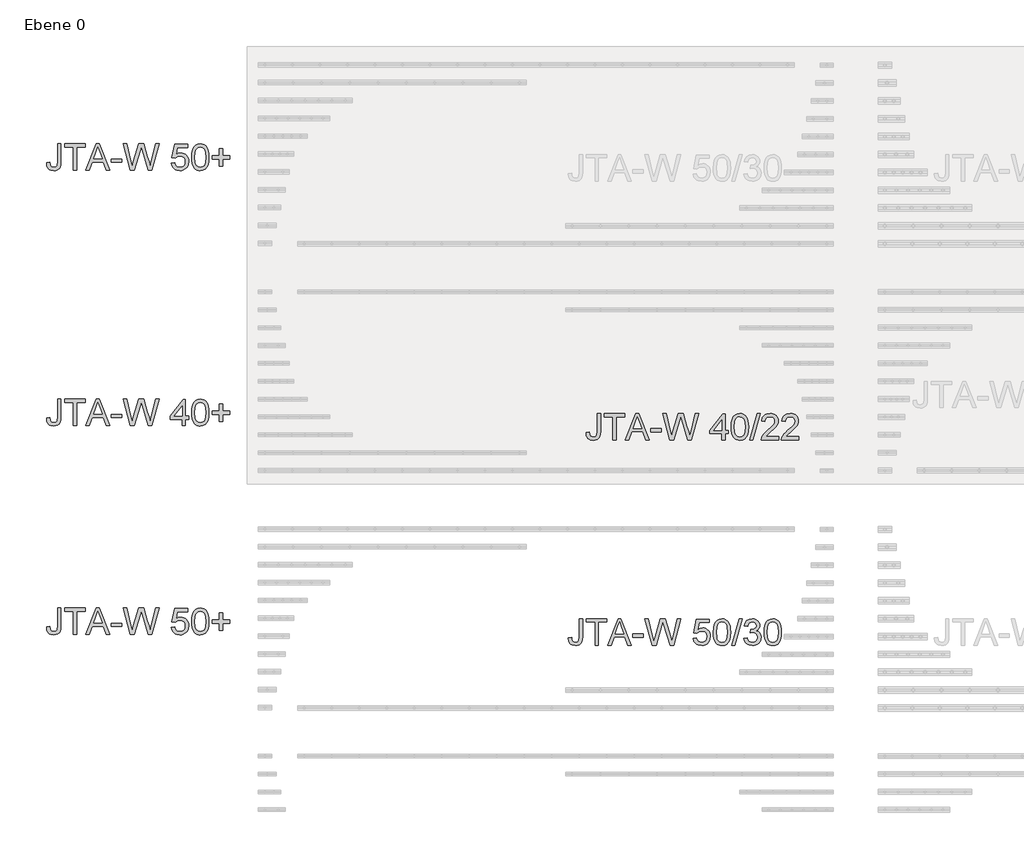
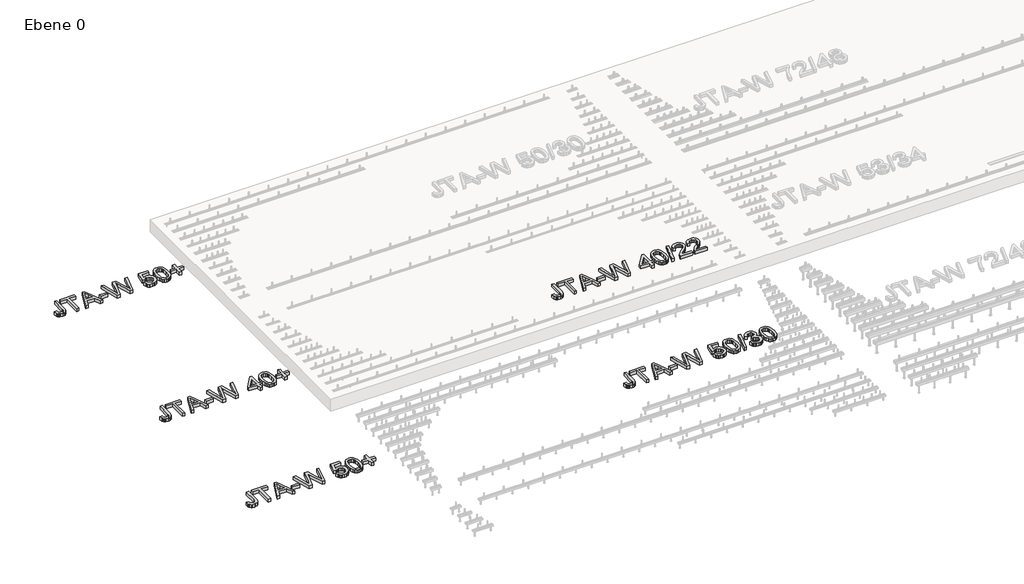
# One storey, part 4 of 5: 5 proxies.
"""IFC4 building model written with IfcOpenShell, lengths in millimetres."""

from ifc_helpers import new_model, si_unit, origin, origin_with_axes, place, context, project, spatial, polyline, outline, extrude, element, save

model = new_model("IFC4")

# Units and contexts
model_context = context("Model", 3, world=origin())
ifc_project = project(units=[si_unit("LENGTHUNIT", "METRE", prefix="MILLI")], contexts=[model_context])

# Site, building, storey
site = spatial("IfcSite", under=ifc_project)
building = spatial("IfcBuilding", under=site)
storey = spatial("IfcBuildingStorey", under=building, Name="Ebene 0", Elevation=0.0)

# Proxies
placement = place(None, origin())
element("IfcBuildingElementProxy", 1, Name="600mm Arial", ObjectType="600mm Arial", at=placement, inside=storey, context=model_context, shape_type="SweptSolid", body=[
    extrude(outline(polyline([(-10013.7628927, 865.6259075), (-9976.8398158, 870.3855229), (-9972.9996716, 843.5405709), (-9964.2196235, 826.7557152), (-9950.806162, 817.9396094), (-9933.0657774, 815.0009075), (-9919.4269552, 816.6685757), (-9907.789335, 821.6715805), (-9898.8109697, 829.5501863), (-9893.149912, 839.8446575), (-9889.1475081, 876.4432152), (-9889.1475081, 1078.0778305), (-9852.2244312, 1078.0778305), (-9852.2244312, 877.0922536), (-9854.4509937, 844.2166527), (-9861.1306812, 819.7244652), (-9872.6511139, 801.8308354), (-9889.399912, 788.7509075), (-9910.430561, 780.7460998), (-9934.7965466, 778.0778305), (-9968.9251524, 783.585643), (-9982.595525, 790.4704087), (-9994.0032774, 800.1090805), (-10002.945585, 812.465601), (-10009.2196235, 827.5039123), (-10013.7628927, 865.6259075)])), origin_with_axes(), (0.0, 0.0, 1.0), 50.0),
    extrude(outline(polyline([(-9713.7628927, 782.6932152), (-9713.7628927, 1041.1547536), (-9810.6859697, 1041.1547536), (-9810.6859697, 1078.0778305), (-9579.9167389, 1078.0778305), (-9579.9167389, 1041.1547536), (-9676.8398158, 1041.1547536), (-9676.8398158, 782.6932152), (-9713.7628927, 782.6932152)])), origin_with_axes(), (0.0, 0.0, 1.0), 50.0),
    extrude(outline(polyline([(-9572.7773158, 782.6932152), (-9454.868662, 1078.0778305), (-9423.4263543, 1078.0778305), (-9305.5177004, 782.6932152), (-9344.5321235, 782.6932152), (-9378.3542389, 875.0009075), (-9500.0128927, 875.0009075), (-9533.7628927, 782.6932152), (-9572.7773158, 782.6932152)]), holes=[polyline([(-9486.4552004, 911.9239844), (-9391.8398158, 911.9239844), (-9418.4503927, 984.5441767), (-9439.1475081, 1041.1547536), (-9457.5369312, 990.8903305), (-9486.4552004, 911.9239844)])]), origin_with_axes(), (0.0, 0.0, 1.0), 50.0),
    extrude(outline(polyline([(-9289.1475081, 870.3855229), (-9289.1475081, 907.3085998), (-9173.7628927, 907.3085998), (-9173.7628927, 870.3855229), (-9289.1475081, 870.3855229)])), origin_with_axes(), (0.0, 0.0, 1.0), 50.0),
    extrude(outline(polyline([(-9074.7484697, 782.6932152), (-9155.3013543, 1078.0778305), (-9117.2244312, 1078.0778305), (-9070.493662, 883.9432152), (-9056.070585, 824.0153305), (-9040.6378927, 877.0201382), (-8982.0802004, 1078.0778305), (-8927.2003927, 1078.0778305), (-8884.6523158, 932.3326382), (-8866.4251524, 878.2460998), (-8852.993662, 824.0153305), (-8839.0032774, 882.2124459), (-8791.8398158, 1078.0778305), (-8753.7628927, 1078.0778305), (-8834.3878927, 782.6932152), (-8873.8350081, 782.6932152), (-8944.6523158, 1010.5778305), (-8954.5321235, 1042.3807152), (-8965.6378927, 1004.0874459), (-9030.181162, 782.6932152), (-9074.7484697, 782.6932152)])), origin_with_axes(), (0.0, 0.0, 1.0), 50.0),
    extrude(outline(polyline([(-8615.3013543, 861.1547536), (-8578.3782774, 865.7701382), (-8571.5994312, 843.6036719), (-8559.7725081, 827.7292729), (-8542.9515947, 818.1829988), (-8521.1907774, 815.0009075), (-8494.7244312, 819.4269892), (-8474.8927004, 832.7052344), (-8462.5068831, 853.3031911), (-8458.3782774, 879.6884075), (-8462.2454649, 904.5321575), (-8473.8470274, 923.5345613), (-8493.2731091, 935.5958594), (-8520.6138543, 939.6162921), (-8538.5255129, 938.0117248), (-8553.0297197, 933.1980229), (-8573.7628927, 916.539369), (-8610.6859697, 921.1547536), (-8578.3782774, 1073.4624459), (-8435.3013543, 1073.4624459), (-8435.3013543, 1036.539369), (-8548.5225081, 1036.539369), (-8564.3157774, 955.1932152), (-8537.9395754, 971.2028305), (-8510.3013543, 976.539369), (-8492.3198338, 974.8852224), (-8475.8031572, 969.9227825), (-8460.7513242, 961.6520493), (-8447.164335, 950.0730229), (-8435.9165887, 935.8933354), (-8427.8824841, 919.820619), (-8423.0620213, 901.8548738), (-8421.4552004, 881.9960998), (-8427.24246, 845.0730229), (-8434.4765346, 828.6126863), (-8444.6042389, 813.4864844), (-8459.946787, 797.9951983), (-8477.8494312, 786.929994), (-8498.3121716, 780.2908714), (-8521.3350081, 778.0778305), (-8557.6000322, 783.7659315), (-8572.9673699, 790.8760577), (-8586.4912581, 800.8302344), (-8597.7435117, 813.1326683), (-8606.2959456, 827.2875661), (-8615.3013543, 861.1547536)])), origin_with_axes(), (0.0, 0.0, 1.0), 50.0),
    extrude(outline(polyline([(-8389.1475081, 928.0057152), (-8386.4341668, 975.2863642), (-8378.2941427, 1012.9936959), (-8364.8085658, 1041.7046334), (-8346.0585658, 1061.9960998), (-8321.9089264, 1074.0573979), (-8292.2244312, 1078.0778305), (-8269.4720274, 1075.6980229), (-8249.0994312, 1068.5585998), (-8232.0621716, 1056.9390084), (-8219.3157774, 1041.1186959), (-8209.6883735, 1021.2328786), (-8202.008085, 997.4167729), (-8196.978037, 967.1733834), (-8195.3013543, 928.0057152), (-8197.9876524, 880.9954988), (-8206.0465466, 843.3783113), (-8219.4509937, 814.6403305), (-8238.1739504, 794.2677344), (-8262.3776764, 782.1253065), (-8292.2244312, 778.0778305), (-8312.5609697, 779.835643), (-8330.5898158, 785.1090805), (-8346.3109697, 793.898143), (-8359.7244312, 806.2028305), (-8372.5970274, 828.4459195), (-8381.7917389, 856.1607632), (-8387.3085658, 889.3473618), (-8389.1475081, 928.0057152)]), holes=[polyline([(-8352.2244312, 928.0778305), (-8347.8975081, 869.9979027), (-8342.4888543, 850.1323678), (-8334.9167389, 836.383119), (-8315.5898158, 820.3464604), (-8292.2244312, 815.0009075), (-8268.8590466, 820.3644892), (-8249.5321235, 836.4552344), (-8241.9600081, 850.2270192), (-8236.5513543, 870.0880469), (-8232.2244312, 928.0778305), (-8236.4071235, 984.8506671), (-8241.6354889, 1004.6508474), (-8248.9552004, 1018.726869), (-8268.2460658, 1035.5477825), (-8292.6571235, 1041.1547536), (-8315.7701043, 1036.2148498), (-8334.3398158, 1021.3951382), (-8342.164335, 1006.070619), (-8347.7532774, 985.4095613), (-8352.2244312, 928.0778305)])]), origin_with_axes(), (0.0, 0.0, 1.0), 50.0),
    extrude(outline(polyline([(-8079.9167389, 828.8470613), (-8079.9167389, 907.3085998), (-8158.3782774, 907.3085998), (-8158.3782774, 944.2316767), (-8079.9167389, 944.2316767), (-8079.9167389, 1022.6932152), (-8042.993662, 1022.6932152), (-8042.993662, 944.2316767), (-7964.5321235, 944.2316767), (-7964.5321235, 907.3085998), (-8042.993662, 907.3085998), (-8042.993662, 828.8470613), (-8079.9167389, 828.8470613)])), origin_with_axes(), (0.0, 0.0, 1.0), 50.0),
])
element("IfcBuildingElementProxy", 2, Name="600mm Arial", ObjectType="600mm Arial", at=placement, inside=storey, context=model_context, shape_type="SweptSolid", body=[
    extrude(outline(polyline([(-4173.7628927, 745.6259075), (-4136.8398158, 750.3855229), (-4132.9996716, 723.5405709), (-4124.2196235, 706.7557152), (-4110.806162, 697.9396094), (-4093.0657774, 695.0009075), (-4079.4269552, 696.6685757), (-4067.789335, 701.6715805), (-4058.8109697, 709.5501863), (-4053.149912, 719.8446575), (-4049.1475081, 756.4432152), (-4049.1475081, 958.0778305), (-4012.2244312, 958.0778305), (-4012.2244312, 757.0922536), (-4014.4509937, 724.2166527), (-4021.1306812, 699.7244652), (-4032.6511139, 681.8308354), (-4049.399912, 668.7509075), (-4070.430561, 660.7460998), (-4094.7965466, 658.0778305), (-4128.9251524, 663.585643), (-4142.595525, 670.4704087), (-4154.0032774, 680.1090805), (-4162.945585, 692.465601), (-4169.2196235, 707.5039123), (-4173.7628927, 745.6259075)])), origin_with_axes(), (0.0, 0.0, 1.0), 50.0),
    extrude(outline(polyline([(-3873.7628927, 662.6932152), (-3873.7628927, 921.1547536), (-3970.6859697, 921.1547536), (-3970.6859697, 958.0778305), (-3739.9167389, 958.0778305), (-3739.9167389, 921.1547536), (-3836.8398158, 921.1547536), (-3836.8398158, 662.6932152), (-3873.7628927, 662.6932152)])), origin_with_axes(), (0.0, 0.0, 1.0), 50.0),
    extrude(outline(polyline([(-3732.7773158, 662.6932152), (-3614.868662, 958.0778305), (-3583.4263543, 958.0778305), (-3465.5177004, 662.6932152), (-3504.5321235, 662.6932152), (-3538.3542389, 755.0009075), (-3660.0128927, 755.0009075), (-3693.7628927, 662.6932152), (-3732.7773158, 662.6932152)]), holes=[polyline([(-3646.4552004, 791.9239844), (-3551.8398158, 791.9239844), (-3578.4503927, 864.5441767), (-3599.1475081, 921.1547536), (-3617.5369312, 870.8903305), (-3646.4552004, 791.9239844)])]), origin_with_axes(), (0.0, 0.0, 1.0), 50.0),
    extrude(outline(polyline([(-3449.1475081, 750.3855229), (-3449.1475081, 787.3085998), (-3333.7628927, 787.3085998), (-3333.7628927, 750.3855229), (-3449.1475081, 750.3855229)])), origin_with_axes(), (0.0, 0.0, 1.0), 50.0),
    extrude(outline(polyline([(-3234.7484697, 662.6932152), (-3315.3013543, 958.0778305), (-3277.2244312, 958.0778305), (-3230.493662, 763.9432152), (-3216.070585, 704.0153305), (-3200.6378927, 757.0201382), (-3142.0802004, 958.0778305), (-3087.2003927, 958.0778305), (-3044.6523158, 812.3326382), (-3026.4251524, 758.2460998), (-3012.993662, 704.0153305), (-2999.0032774, 762.2124459), (-2951.8398158, 958.0778305), (-2913.7628927, 958.0778305), (-2994.3878927, 662.6932152), (-3033.8350081, 662.6932152), (-3104.6523158, 890.5778305), (-3114.5321235, 922.3807152), (-3125.6378927, 884.0874459), (-3190.181162, 662.6932152), (-3234.7484697, 662.6932152)])), origin_with_axes(), (0.0, 0.0, 1.0), 50.0),
    extrude(outline(polyline([(-2775.3013543, 741.1547536), (-2738.3782774, 745.7701382), (-2731.5994312, 723.6036719), (-2719.7725081, 707.7292729), (-2702.9515947, 698.1829988), (-2681.1907774, 695.0009075), (-2654.7244312, 699.4269892), (-2634.8927004, 712.7052344), (-2622.5068831, 733.3031911), (-2618.3782774, 759.6884075), (-2622.2454649, 784.5321575), (-2633.8470274, 803.5345613), (-2653.2731091, 815.5958594), (-2680.6138543, 819.6162921), (-2698.5255129, 818.0117248), (-2713.0297197, 813.1980229), (-2733.7628927, 796.539369), (-2770.6859697, 801.1547536), (-2738.3782774, 953.4624459), (-2595.3013543, 953.4624459), (-2595.3013543, 916.539369), (-2708.5225081, 916.539369), (-2724.3157774, 835.1932152), (-2697.9395754, 851.2028305), (-2670.3013543, 856.539369), (-2652.3198338, 854.8852224), (-2635.8031572, 849.9227825), (-2620.7513242, 841.6520493), (-2607.164335, 830.0730229), (-2595.9165887, 815.8933354), (-2587.8824841, 799.820619), (-2583.0620213, 781.8548738), (-2581.4552004, 761.9960998), (-2587.24246, 725.0730229), (-2594.4765346, 708.6126863), (-2604.6042389, 693.4864844), (-2619.946787, 677.9951983), (-2637.8494312, 666.929994), (-2658.3121716, 660.2908714), (-2681.3350081, 658.0778305), (-2717.6000322, 663.7659315), (-2732.9673699, 670.8760577), (-2746.4912581, 680.8302344), (-2757.7435117, 693.1326683), (-2766.2959456, 707.2875661), (-2775.3013543, 741.1547536)])), origin_with_axes(), (0.0, 0.0, 1.0), 50.0),
    extrude(outline(polyline([(-2549.1475081, 808.0057152), (-2546.4341668, 855.2863642), (-2538.2941427, 892.9936959), (-2524.8085658, 921.7046334), (-2506.0585658, 941.9960998), (-2481.9089264, 954.0573979), (-2452.2244312, 958.0778305), (-2429.4720274, 955.6980229), (-2409.0994312, 948.5585998), (-2392.0621716, 936.9390084), (-2379.3157774, 921.1186959), (-2369.6883735, 901.2328786), (-2362.008085, 877.4167729), (-2356.978037, 847.1733834), (-2355.3013543, 808.0057152), (-2357.9876524, 760.9954988), (-2366.0465466, 723.3783113), (-2379.4509937, 694.6403305), (-2398.1739504, 674.2677344), (-2422.3776764, 662.1253065), (-2452.2244312, 658.0778305), (-2472.5609697, 659.835643), (-2490.5898158, 665.1090805), (-2506.3109697, 673.898143), (-2519.7244312, 686.2028305), (-2532.5970274, 708.4459195), (-2541.7917389, 736.1607632), (-2547.3085658, 769.3473618), (-2549.1475081, 808.0057152)]), holes=[polyline([(-2512.2244312, 808.0778305), (-2507.8975081, 749.9979027), (-2502.4888543, 730.1323678), (-2494.9167389, 716.383119), (-2475.5898158, 700.3464604), (-2452.2244312, 695.0009075), (-2428.8590466, 700.3644892), (-2409.5321235, 716.4552344), (-2401.9600081, 730.2270192), (-2396.5513543, 750.0880469), (-2392.2244312, 808.0778305), (-2396.4071235, 864.8506671), (-2401.6354889, 884.6508474), (-2408.9552004, 898.726869), (-2428.2460658, 915.5477825), (-2452.6571235, 921.1547536), (-2475.7701043, 916.2148498), (-2494.3398158, 901.3951382), (-2502.164335, 886.070619), (-2507.7532774, 865.4095613), (-2512.2244312, 808.0778305)])]), origin_with_axes(), (0.0, 0.0, 1.0), 50.0),
    extrude(outline(polyline([(-2341.4552004, 662.6932152), (-2258.3782774, 958.0778305), (-2225.0609697, 958.0778305), (-2308.1378927, 662.6932152), (-2341.4552004, 662.6932152)])), origin_with_axes(), (0.0, 0.0, 1.0), 50.0),
    extrude(outline(polyline([(-2207.6090466, 741.1547536), (-2170.6859697, 745.7701382), (-2162.4197437, 722.5670132), (-2150.3133735, 706.8999459), (-2133.7719072, 697.9756671), (-2112.2003927, 695.0009075), (-2086.8878927, 699.0934555), (-2067.3446235, 711.3710998), (-2054.8506331, 729.6884075), (-2050.6859697, 751.8999459), (-2054.8145754, 772.9846815), (-2067.2003927, 790.0850421), (-2085.9503927, 801.4161719), (-2109.1715466, 805.1932152), (-2135.0609697, 801.1547536), (-2130.9503927, 838.0778305), (-2125.0369312, 837.6451382), (-2102.915537, 840.2953786), (-2083.1378927, 848.2460998), (-2069.1835658, 861.695619), (-2064.5321235, 880.8422536), (-2067.9035177, 896.788768), (-2078.0177004, 909.7244652), (-2093.4503927, 918.2971815), (-2112.7773158, 921.1547536), (-2132.1402966, 918.2701382), (-2147.9696235, 909.6162921), (-2159.5261139, 895.1932152), (-2166.070585, 875.0009075), (-2202.993662, 879.6162921), (-2192.1222677, 912.7713402), (-2172.7773158, 937.5249459), (-2146.3109697, 952.9396094), (-2114.0753927, 958.0778305), (-2090.8632533, 955.5447777), (-2069.5441427, 947.945619), (-2051.5693831, 935.9564363), (-2038.3902966, 920.2533113), (-2030.3043591, 902.1613642), (-2027.6090466, 883.0057152), (-2030.1691427, 865.1571575), (-2037.8494312, 848.9672536), (-2050.5417389, 835.1751863), (-2068.1378927, 824.5201382), (-2045.024912, 815.1811959), (-2027.8975081, 799.2797536), (-2017.2965466, 777.6811959), (-2013.7628927, 751.2509075), (-2015.5297197, 732.5189363), (-2020.8302004, 715.2653305), (-2029.664335, 699.4900902), (-2042.0321235, 685.1932152), (-2057.0997317, 673.3302344), (-2074.0333254, 664.8566767), (-2092.8329048, 659.7725421), (-2113.4984697, 658.0778305), (-2149.195585, 663.8650902), (-2164.556162, 671.0991647), (-2178.258085, 681.226869), (-2189.7469673, 693.6532512), (-2198.4684216, 707.7833594), (-2207.6090466, 741.1547536)])), origin_with_axes(), (0.0, 0.0, 1.0), 50.0),
    extrude(outline(polyline([(-1981.4552004, 808.0057152), (-1978.7418591, 855.2863642), (-1970.601835, 892.9936959), (-1957.1162581, 921.7046334), (-1938.3662581, 941.9960998), (-1914.2166187, 954.0573979), (-1884.5321235, 958.0778305), (-1861.7797197, 955.6980229), (-1841.4071235, 948.5585998), (-1824.3698639, 936.9390084), (-1811.6234697, 921.1186959), (-1801.9960658, 901.2328786), (-1794.3157774, 877.4167729), (-1789.2857293, 847.1733834), (-1787.6090466, 808.0057152), (-1790.2953447, 760.9954988), (-1798.3542389, 723.3783113), (-1811.758686, 694.6403305), (-1830.4816427, 674.2677344), (-1854.6853687, 662.1253065), (-1884.5321235, 658.0778305), (-1904.868662, 659.835643), (-1922.8975081, 665.1090805), (-1938.618662, 673.898143), (-1952.0321235, 686.2028305), (-1964.9047197, 708.4459195), (-1974.0994312, 736.1607632), (-1979.6162581, 769.3473618), (-1981.4552004, 808.0057152)]), holes=[polyline([(-1944.5321235, 808.0778305), (-1940.2052004, 749.9979027), (-1934.7965466, 730.1323678), (-1927.2244312, 716.383119), (-1907.8975081, 700.3464604), (-1884.5321235, 695.0009075), (-1861.1667389, 700.3644892), (-1841.8398158, 716.4552344), (-1834.2677004, 730.2270192), (-1828.8590466, 750.0880469), (-1824.5321235, 808.0778305), (-1828.7148158, 864.8506671), (-1833.9431812, 884.6508474), (-1841.2628927, 898.726869), (-1860.5537581, 915.5477825), (-1884.9648158, 921.1547536), (-1908.0777966, 916.2148498), (-1926.6475081, 901.3951382), (-1934.4720274, 886.070619), (-1940.0609697, 865.4095613), (-1944.5321235, 808.0778305)])]), origin_with_axes(), (0.0, 0.0, 1.0), 50.0),
])
element("IfcBuildingElementProxy", 3, Name="600mm Arial", ObjectType="600mm Arial", at=placement, inside=storey, context=model_context, shape_type="SweptSolid", body=[
    extrude(outline(polyline([(-10013.7628927, 3205.6259075), (-9976.8398158, 3210.3855229), (-9972.9996716, 3183.5405709), (-9964.2196235, 3166.7557152), (-9950.806162, 3157.9396094), (-9933.0657774, 3155.0009075), (-9919.4269552, 3156.6685757), (-9907.789335, 3161.6715805), (-9898.8109697, 3169.5501863), (-9893.149912, 3179.8446575), (-9889.1475081, 3216.4432152), (-9889.1475081, 3418.0778305), (-9852.2244312, 3418.0778305), (-9852.2244312, 3217.0922536), (-9854.4509937, 3184.2166527), (-9861.1306812, 3159.7244652), (-9872.6511139, 3141.8308354), (-9889.399912, 3128.7509075), (-9910.430561, 3120.7460998), (-9934.7965466, 3118.0778305), (-9968.9251524, 3123.585643), (-9982.595525, 3130.4704087), (-9994.0032774, 3140.1090805), (-10002.945585, 3152.465601), (-10009.2196235, 3167.5039123), (-10013.7628927, 3205.6259075)])), origin_with_axes(), (0.0, 0.0, 1.0), 50.0),
    extrude(outline(polyline([(-9713.7628927, 3122.6932152), (-9713.7628927, 3381.1547536), (-9810.6859697, 3381.1547536), (-9810.6859697, 3418.0778305), (-9579.9167389, 3418.0778305), (-9579.9167389, 3381.1547536), (-9676.8398158, 3381.1547536), (-9676.8398158, 3122.6932152), (-9713.7628927, 3122.6932152)])), origin_with_axes(), (0.0, 0.0, 1.0), 50.0),
    extrude(outline(polyline([(-9572.7773158, 3122.6932152), (-9454.868662, 3418.0778305), (-9423.4263543, 3418.0778305), (-9305.5177004, 3122.6932152), (-9344.5321235, 3122.6932152), (-9378.3542389, 3215.0009075), (-9500.0128927, 3215.0009075), (-9533.7628927, 3122.6932152), (-9572.7773158, 3122.6932152)]), holes=[polyline([(-9486.4552004, 3251.9239844), (-9391.8398158, 3251.9239844), (-9418.4503927, 3324.5441767), (-9439.1475081, 3381.1547536), (-9457.5369312, 3330.8903305), (-9486.4552004, 3251.9239844)])]), origin_with_axes(), (0.0, 0.0, 1.0), 50.0),
    extrude(outline(polyline([(-9289.1475081, 3210.3855229), (-9289.1475081, 3247.3085998), (-9173.7628927, 3247.3085998), (-9173.7628927, 3210.3855229), (-9289.1475081, 3210.3855229)])), origin_with_axes(), (0.0, 0.0, 1.0), 50.0),
    extrude(outline(polyline([(-9074.7484697, 3122.6932152), (-9155.3013543, 3418.0778305), (-9117.2244312, 3418.0778305), (-9070.493662, 3223.9432152), (-9056.070585, 3164.0153305), (-9040.6378927, 3217.0201382), (-8982.0802004, 3418.0778305), (-8927.2003927, 3418.0778305), (-8884.6523158, 3272.3326382), (-8866.4251524, 3218.2460998), (-8852.993662, 3164.0153305), (-8839.0032774, 3222.2124459), (-8791.8398158, 3418.0778305), (-8753.7628927, 3418.0778305), (-8834.3878927, 3122.6932152), (-8873.8350081, 3122.6932152), (-8944.6523158, 3350.5778305), (-8954.5321235, 3382.3807152), (-8965.6378927, 3344.0874459), (-9030.181162, 3122.6932152), (-9074.7484697, 3122.6932152)])), origin_with_axes(), (0.0, 0.0, 1.0), 50.0),
    extrude(outline(polyline([(-8495.3013543, 3122.6932152), (-8495.3013543, 3191.9239844), (-8629.1475081, 3191.9239844), (-8629.1475081, 3228.8470613), (-8486.070585, 3413.4624459), (-8458.3782774, 3413.4624459), (-8458.3782774, 3228.8470613), (-8421.4552004, 3228.8470613), (-8421.4552004, 3191.9239844), (-8458.3782774, 3191.9239844), (-8458.3782774, 3122.6932152), (-8495.3013543, 3122.6932152)]), holes=[polyline([(-8495.3013543, 3228.8470613), (-8495.3013543, 3342.9335998), (-8583.7148158, 3228.8470613), (-8495.3013543, 3228.8470613)])]), origin_with_axes(), (0.0, 0.0, 1.0), 50.0),
    extrude(outline(polyline([(-8389.1475081, 3268.0057152), (-8386.4341668, 3315.2863642), (-8378.2941427, 3352.9936959), (-8364.8085658, 3381.7046334), (-8346.0585658, 3401.9960998), (-8321.9089264, 3414.0573979), (-8292.2244312, 3418.0778305), (-8269.4720274, 3415.6980229), (-8249.0994312, 3408.5585998), (-8232.0621716, 3396.9390084), (-8219.3157774, 3381.1186959), (-8209.6883735, 3361.2328786), (-8202.008085, 3337.4167729), (-8196.978037, 3307.1733834), (-8195.3013543, 3268.0057152), (-8197.9876524, 3220.9954988), (-8206.0465466, 3183.3783113), (-8219.4509937, 3154.6403305), (-8238.1739504, 3134.2677344), (-8262.3776764, 3122.1253065), (-8292.2244312, 3118.0778305), (-8312.5609697, 3119.835643), (-8330.5898158, 3125.1090805), (-8346.3109697, 3133.898143), (-8359.7244312, 3146.2028305), (-8372.5970274, 3168.4459195), (-8381.7917389, 3196.1607632), (-8387.3085658, 3229.3473618), (-8389.1475081, 3268.0057152)]), holes=[polyline([(-8352.2244312, 3268.0778305), (-8347.8975081, 3209.9979027), (-8342.4888543, 3190.1323678), (-8334.9167389, 3176.383119), (-8315.5898158, 3160.3464604), (-8292.2244312, 3155.0009075), (-8268.8590466, 3160.3644892), (-8249.5321235, 3176.4552344), (-8241.9600081, 3190.2270192), (-8236.5513543, 3210.0880469), (-8232.2244312, 3268.0778305), (-8236.4071235, 3324.8506671), (-8241.6354889, 3344.6508474), (-8248.9552004, 3358.726869), (-8268.2460658, 3375.5477825), (-8292.6571235, 3381.1547536), (-8315.7701043, 3376.2148498), (-8334.3398158, 3361.3951382), (-8342.164335, 3346.070619), (-8347.7532774, 3325.4095613), (-8352.2244312, 3268.0778305)])]), origin_with_axes(), (0.0, 0.0, 1.0), 50.0),
    extrude(outline(polyline([(-8079.9167389, 3168.8470613), (-8079.9167389, 3247.3085998), (-8158.3782774, 3247.3085998), (-8158.3782774, 3284.2316767), (-8079.9167389, 3284.2316767), (-8079.9167389, 3362.6932152), (-8042.993662, 3362.6932152), (-8042.993662, 3284.2316767), (-7964.5321235, 3284.2316767), (-7964.5321235, 3247.3085998), (-8042.993662, 3247.3085998), (-8042.993662, 3168.8470613), (-8079.9167389, 3168.8470613)])), origin_with_axes(), (0.0, 0.0, 1.0), 50.0),
])
element("IfcBuildingElementProxy", 4, Name="600mm Arial", ObjectType="600mm Arial", at=placement, inside=storey, context=model_context, shape_type="SweptSolid", body=[
    extrude(outline(polyline([(-10013.7628927, 6065.6259075), (-9976.8398158, 6070.3855229), (-9972.9996716, 6043.5405709), (-9964.2196235, 6026.7557152), (-9950.806162, 6017.9396094), (-9933.0657774, 6015.0009075), (-9919.4269552, 6016.6685757), (-9907.789335, 6021.6715805), (-9898.8109697, 6029.5501863), (-9893.149912, 6039.8446575), (-9889.1475081, 6076.4432152), (-9889.1475081, 6278.0778305), (-9852.2244312, 6278.0778305), (-9852.2244312, 6077.0922536), (-9854.4509937, 6044.2166527), (-9861.1306812, 6019.7244652), (-9872.6511139, 6001.8308354), (-9889.399912, 5988.7509075), (-9910.430561, 5980.7460998), (-9934.7965466, 5978.0778305), (-9968.9251524, 5983.585643), (-9982.595525, 5990.4704087), (-9994.0032774, 6000.1090805), (-10002.945585, 6012.465601), (-10009.2196235, 6027.5039123), (-10013.7628927, 6065.6259075)])), origin_with_axes(), (0.0, 0.0, 1.0), 50.0),
    extrude(outline(polyline([(-9713.7628927, 5982.6932152), (-9713.7628927, 6241.1547536), (-9810.6859697, 6241.1547536), (-9810.6859697, 6278.0778305), (-9579.9167389, 6278.0778305), (-9579.9167389, 6241.1547536), (-9676.8398158, 6241.1547536), (-9676.8398158, 5982.6932152), (-9713.7628927, 5982.6932152)])), origin_with_axes(), (0.0, 0.0, 1.0), 50.0),
    extrude(outline(polyline([(-9572.7773158, 5982.6932152), (-9454.868662, 6278.0778305), (-9423.4263543, 6278.0778305), (-9305.5177004, 5982.6932152), (-9344.5321235, 5982.6932152), (-9378.3542389, 6075.0009075), (-9500.0128927, 6075.0009075), (-9533.7628927, 5982.6932152), (-9572.7773158, 5982.6932152)]), holes=[polyline([(-9486.4552004, 6111.9239844), (-9391.8398158, 6111.9239844), (-9418.4503927, 6184.5441767), (-9439.1475081, 6241.1547536), (-9457.5369312, 6190.8903305), (-9486.4552004, 6111.9239844)])]), origin_with_axes(), (0.0, 0.0, 1.0), 50.0),
    extrude(outline(polyline([(-9289.1475081, 6070.3855229), (-9289.1475081, 6107.3085998), (-9173.7628927, 6107.3085998), (-9173.7628927, 6070.3855229), (-9289.1475081, 6070.3855229)])), origin_with_axes(), (0.0, 0.0, 1.0), 50.0),
    extrude(outline(polyline([(-9074.7484697, 5982.6932152), (-9155.3013543, 6278.0778305), (-9117.2244312, 6278.0778305), (-9070.493662, 6083.9432152), (-9056.070585, 6024.0153305), (-9040.6378927, 6077.0201382), (-8982.0802004, 6278.0778305), (-8927.2003927, 6278.0778305), (-8884.6523158, 6132.3326382), (-8866.4251524, 6078.2460998), (-8852.993662, 6024.0153305), (-8839.0032774, 6082.2124459), (-8791.8398158, 6278.0778305), (-8753.7628927, 6278.0778305), (-8834.3878927, 5982.6932152), (-8873.8350081, 5982.6932152), (-8944.6523158, 6210.5778305), (-8954.5321235, 6242.3807152), (-8965.6378927, 6204.0874459), (-9030.181162, 5982.6932152), (-9074.7484697, 5982.6932152)])), origin_with_axes(), (0.0, 0.0, 1.0), 50.0),
    extrude(outline(polyline([(-8615.3013543, 6061.1547536), (-8578.3782774, 6065.7701382), (-8571.5994312, 6043.6036719), (-8559.7725081, 6027.7292729), (-8542.9515947, 6018.1829988), (-8521.1907774, 6015.0009075), (-8494.7244312, 6019.4269892), (-8474.8927004, 6032.7052344), (-8462.5068831, 6053.3031911), (-8458.3782774, 6079.6884075), (-8462.2454649, 6104.5321575), (-8473.8470274, 6123.5345613), (-8493.2731091, 6135.5958594), (-8520.6138543, 6139.6162921), (-8538.5255129, 6138.0117248), (-8553.0297197, 6133.1980229), (-8573.7628927, 6116.539369), (-8610.6859697, 6121.1547536), (-8578.3782774, 6273.4624459), (-8435.3013543, 6273.4624459), (-8435.3013543, 6236.539369), (-8548.5225081, 6236.539369), (-8564.3157774, 6155.1932152), (-8537.9395754, 6171.2028305), (-8510.3013543, 6176.539369), (-8492.3198338, 6174.8852224), (-8475.8031572, 6169.9227825), (-8460.7513242, 6161.6520493), (-8447.164335, 6150.0730229), (-8435.9165887, 6135.8933354), (-8427.8824841, 6119.820619), (-8423.0620213, 6101.8548738), (-8421.4552004, 6081.9960998), (-8427.24246, 6045.0730229), (-8434.4765346, 6028.6126863), (-8444.6042389, 6013.4864844), (-8459.946787, 5997.9951983), (-8477.8494312, 5986.929994), (-8498.3121716, 5980.2908714), (-8521.3350081, 5978.0778305), (-8557.6000322, 5983.7659315), (-8572.9673699, 5990.8760577), (-8586.4912581, 6000.8302344), (-8597.7435117, 6013.1326683), (-8606.2959456, 6027.2875661), (-8615.3013543, 6061.1547536)])), origin_with_axes(), (0.0, 0.0, 1.0), 50.0),
    extrude(outline(polyline([(-8389.1475081, 6128.0057152), (-8386.4341668, 6175.2863642), (-8378.2941427, 6212.9936959), (-8364.8085658, 6241.7046334), (-8346.0585658, 6261.9960998), (-8321.9089264, 6274.0573979), (-8292.2244312, 6278.0778305), (-8269.4720274, 6275.6980229), (-8249.0994312, 6268.5585998), (-8232.0621716, 6256.9390084), (-8219.3157774, 6241.1186959), (-8209.6883735, 6221.2328786), (-8202.008085, 6197.4167729), (-8196.978037, 6167.1733834), (-8195.3013543, 6128.0057152), (-8197.9876524, 6080.9954988), (-8206.0465466, 6043.3783113), (-8219.4509937, 6014.6403305), (-8238.1739504, 5994.2677344), (-8262.3776764, 5982.1253065), (-8292.2244312, 5978.0778305), (-8312.5609697, 5979.835643), (-8330.5898158, 5985.1090805), (-8346.3109697, 5993.898143), (-8359.7244312, 6006.2028305), (-8372.5970274, 6028.4459195), (-8381.7917389, 6056.1607632), (-8387.3085658, 6089.3473618), (-8389.1475081, 6128.0057152)]), holes=[polyline([(-8352.2244312, 6128.0778305), (-8347.8975081, 6069.9979027), (-8342.4888543, 6050.1323678), (-8334.9167389, 6036.383119), (-8315.5898158, 6020.3464604), (-8292.2244312, 6015.0009075), (-8268.8590466, 6020.3644892), (-8249.5321235, 6036.4552344), (-8241.9600081, 6050.2270192), (-8236.5513543, 6070.0880469), (-8232.2244312, 6128.0778305), (-8236.4071235, 6184.8506671), (-8241.6354889, 6204.6508474), (-8248.9552004, 6218.726869), (-8268.2460658, 6235.5477825), (-8292.6571235, 6241.1547536), (-8315.7701043, 6236.2148498), (-8334.3398158, 6221.3951382), (-8342.164335, 6206.070619), (-8347.7532774, 6185.4095613), (-8352.2244312, 6128.0778305)])]), origin_with_axes(), (0.0, 0.0, 1.0), 50.0),
    extrude(outline(polyline([(-8079.9167389, 6028.8470613), (-8079.9167389, 6107.3085998), (-8158.3782774, 6107.3085998), (-8158.3782774, 6144.2316767), (-8079.9167389, 6144.2316767), (-8079.9167389, 6222.6932152), (-8042.993662, 6222.6932152), (-8042.993662, 6144.2316767), (-7964.5321235, 6144.2316767), (-7964.5321235, 6107.3085998), (-8042.993662, 6107.3085998), (-8042.993662, 6028.8470613), (-8079.9167389, 6028.8470613)])), origin_with_axes(), (0.0, 0.0, 1.0), 50.0),
])
element("IfcBuildingElementProxy", 5, Name="600mm Arial", ObjectType="600mm Arial", at=placement, inside=storey, context=model_context, shape_type="SweptSolid", body=[
    extrude(outline(polyline([(-3973.7628927, 3045.6259075), (-3936.8398158, 3050.3855229), (-3932.9996716, 3023.5405709), (-3924.2196235, 3006.7557152), (-3910.806162, 2997.9396094), (-3893.0657774, 2995.0009075), (-3879.4269552, 2996.6685757), (-3867.789335, 3001.6715805), (-3858.8109697, 3009.5501863), (-3853.149912, 3019.8446575), (-3849.1475081, 3056.4432152), (-3849.1475081, 3258.0778305), (-3812.2244312, 3258.0778305), (-3812.2244312, 3057.0922536), (-3814.4509937, 3024.2166527), (-3821.1306812, 2999.7244652), (-3832.6511139, 2981.8308354), (-3849.399912, 2968.7509075), (-3870.430561, 2960.7460998), (-3894.7965466, 2958.0778305), (-3928.9251524, 2963.585643), (-3942.595525, 2970.4704087), (-3954.0032774, 2980.1090805), (-3962.945585, 2992.465601), (-3969.2196235, 3007.5039123), (-3973.7628927, 3045.6259075)])), origin_with_axes(), (0.0, 0.0, 1.0), 50.0),
    extrude(outline(polyline([(-3673.7628927, 2962.6932152), (-3673.7628927, 3221.1547536), (-3770.6859697, 3221.1547536), (-3770.6859697, 3258.0778305), (-3539.9167389, 3258.0778305), (-3539.9167389, 3221.1547536), (-3636.8398158, 3221.1547536), (-3636.8398158, 2962.6932152), (-3673.7628927, 2962.6932152)])), origin_with_axes(), (0.0, 0.0, 1.0), 50.0),
    extrude(outline(polyline([(-3532.7773158, 2962.6932152), (-3414.868662, 3258.0778305), (-3383.4263543, 3258.0778305), (-3265.5177004, 2962.6932152), (-3304.5321235, 2962.6932152), (-3338.3542389, 3055.0009075), (-3460.0128927, 3055.0009075), (-3493.7628927, 2962.6932152), (-3532.7773158, 2962.6932152)]), holes=[polyline([(-3446.4552004, 3091.9239844), (-3351.8398158, 3091.9239844), (-3378.4503927, 3164.5441767), (-3399.1475081, 3221.1547536), (-3417.5369312, 3170.8903305), (-3446.4552004, 3091.9239844)])]), origin_with_axes(), (0.0, 0.0, 1.0), 50.0),
    extrude(outline(polyline([(-3249.1475081, 3050.3855229), (-3249.1475081, 3087.3085998), (-3133.7628927, 3087.3085998), (-3133.7628927, 3050.3855229), (-3249.1475081, 3050.3855229)])), origin_with_axes(), (0.0, 0.0, 1.0), 50.0),
    extrude(outline(polyline([(-3034.7484697, 2962.6932152), (-3115.3013543, 3258.0778305), (-3077.2244312, 3258.0778305), (-3030.493662, 3063.9432152), (-3016.070585, 3004.0153305), (-3000.6378927, 3057.0201382), (-2942.0802004, 3258.0778305), (-2887.2003927, 3258.0778305), (-2844.6523158, 3112.3326382), (-2826.4251524, 3058.2460998), (-2812.993662, 3004.0153305), (-2799.0032774, 3062.2124459), (-2751.8398158, 3258.0778305), (-2713.7628927, 3258.0778305), (-2794.3878927, 2962.6932152), (-2833.8350081, 2962.6932152), (-2904.6523158, 3190.5778305), (-2914.5321235, 3222.3807152), (-2925.6378927, 3184.0874459), (-2990.181162, 2962.6932152), (-3034.7484697, 2962.6932152)])), origin_with_axes(), (0.0, 0.0, 1.0), 50.0),
    extrude(outline(polyline([(-2455.3013543, 2962.6932152), (-2455.3013543, 3031.9239844), (-2589.1475081, 3031.9239844), (-2589.1475081, 3068.8470613), (-2446.070585, 3253.4624459), (-2418.3782774, 3253.4624459), (-2418.3782774, 3068.8470613), (-2381.4552004, 3068.8470613), (-2381.4552004, 3031.9239844), (-2418.3782774, 3031.9239844), (-2418.3782774, 2962.6932152), (-2455.3013543, 2962.6932152)]), holes=[polyline([(-2455.3013543, 3068.8470613), (-2455.3013543, 3182.9335998), (-2543.7148158, 3068.8470613), (-2455.3013543, 3068.8470613)])]), origin_with_axes(), (0.0, 0.0, 1.0), 50.0),
    extrude(outline(polyline([(-2349.1475081, 3108.0057152), (-2346.4341668, 3155.2863642), (-2338.2941427, 3192.9936959), (-2324.8085658, 3221.7046334), (-2306.0585658, 3241.9960998), (-2281.9089264, 3254.0573979), (-2252.2244312, 3258.0778305), (-2229.4720274, 3255.6980229), (-2209.0994312, 3248.5585998), (-2192.0621716, 3236.9390084), (-2179.3157774, 3221.1186959), (-2169.6883735, 3201.2328786), (-2162.008085, 3177.4167729), (-2156.978037, 3147.1733834), (-2155.3013543, 3108.0057152), (-2157.9876524, 3060.9954988), (-2166.0465466, 3023.3783113), (-2179.4509937, 2994.6403305), (-2198.1739504, 2974.2677344), (-2222.3776764, 2962.1253065), (-2252.2244312, 2958.0778305), (-2272.5609697, 2959.835643), (-2290.5898158, 2965.1090805), (-2306.3109697, 2973.898143), (-2319.7244312, 2986.2028305), (-2332.5970274, 3008.4459195), (-2341.7917389, 3036.1607632), (-2347.3085658, 3069.3473618), (-2349.1475081, 3108.0057152)]), holes=[polyline([(-2312.2244312, 3108.0778305), (-2307.8975081, 3049.9979027), (-2302.4888543, 3030.1323678), (-2294.9167389, 3016.383119), (-2275.5898158, 3000.3464604), (-2252.2244312, 2995.0009075), (-2228.8590466, 3000.3644892), (-2209.5321235, 3016.4552344), (-2201.9600081, 3030.2270192), (-2196.5513543, 3050.0880469), (-2192.2244312, 3108.0778305), (-2196.4071235, 3164.8506671), (-2201.6354889, 3184.6508474), (-2208.9552004, 3198.726869), (-2228.2460658, 3215.5477825), (-2252.6571235, 3221.1547536), (-2275.7701043, 3216.2148498), (-2294.3398158, 3201.3951382), (-2302.164335, 3186.070619), (-2307.7532774, 3165.4095613), (-2312.2244312, 3108.0778305)])]), origin_with_axes(), (0.0, 0.0, 1.0), 50.0),
    extrude(outline(polyline([(-2141.4552004, 2962.6932152), (-2058.3782774, 3258.0778305), (-2025.0609697, 3258.0778305), (-2108.1378927, 2962.6932152), (-2141.4552004, 2962.6932152)])), origin_with_axes(), (0.0, 0.0, 1.0), 50.0),
    extrude(outline(polyline([(-1818.3782774, 2999.6162921), (-1818.3782774, 2962.6932152), (-2012.2244312, 2962.6932152), (-2008.258085, 2988.1499459), (-1999.1535177, 3008.0447777), (-1985.8302004, 3027.3446575), (-1966.5573639, 3047.5459796), (-1939.6042389, 3070.1451382), (-1899.7604889, 3105.5357632), (-1875.8542389, 3131.6595613), (-1863.9011139, 3152.8614844), (-1859.9167389, 3173.4864844), (-1863.6757533, 3191.9750661), (-1874.9527966, 3207.3446575), (-1892.2875322, 3217.7022296), (-1914.2196235, 3221.1547536), (-1937.2514745, 3217.7833594), (-1955.1451043, 3207.6691767), (-1966.6925802, 3191.6054748), (-1970.6859697, 3170.3855229), (-2007.6090466, 3175.0009075), (-1998.6577245, 3210.7160517), (-1990.2810718, 3224.9633474), (-1979.3037581, 3236.8037921), (-1965.9781872, 3246.1111839), (-1950.5567629, 3252.7593209), (-1913.4263543, 3258.0778305), (-1893.637442, 3256.5994652), (-1876.0255129, 3252.164369), (-1860.590567, 3244.7725421), (-1847.3326043, 3234.4239844), (-1836.684317, 3221.8849219), (-1829.0783975, 3207.9215805), (-1824.5148459, 3192.5339604), (-1822.993662, 3175.7220613), (-1824.634287, 3158.0628065), (-1829.556162, 3140.7100421), (-1838.2911379, 3123.0598017), (-1851.3710658, 3104.508119), (-1872.2214264, 3082.3596815), (-1904.2677004, 3053.9191767), (-1946.743662, 3018.4023498), (-1963.4023158, 2999.6162921), (-1818.3782774, 2999.6162921)])), origin_with_axes(), (0.0, 0.0, 1.0), 50.0),
    extrude(outline(polyline([(-1592.2244312, 2999.6162921), (-1592.2244312, 2962.6932152), (-1786.070585, 2962.6932152), (-1782.1042389, 2988.1499459), (-1772.9996716, 3008.0447777), (-1759.6763543, 3027.3446575), (-1740.4035177, 3047.5459796), (-1713.4503927, 3070.1451382), (-1673.6066427, 3105.5357632), (-1649.7003927, 3131.6595613), (-1637.7472677, 3152.8614844), (-1633.7628927, 3173.4864844), (-1637.5219072, 3191.9750661), (-1648.7989504, 3207.3446575), (-1666.133686, 3217.7022296), (-1688.0657774, 3221.1547536), (-1711.0976283, 3217.7833594), (-1728.9912581, 3207.6691767), (-1740.5387341, 3191.6054748), (-1744.5321235, 3170.3855229), (-1781.4552004, 3175.0009075), (-1772.5038783, 3210.7160517), (-1764.1272257, 3224.9633474), (-1753.149912, 3236.8037921), (-1739.8243411, 3246.1111839), (-1724.4029168, 3252.7593209), (-1687.2725081, 3258.0778305), (-1667.4835959, 3256.5994652), (-1649.8716668, 3252.164369), (-1634.4367209, 3244.7725421), (-1621.1787581, 3234.4239844), (-1610.5304709, 3221.8849219), (-1602.9245514, 3207.9215805), (-1598.3609997, 3192.5339604), (-1596.8398158, 3175.7220613), (-1598.4804408, 3158.0628065), (-1603.4023158, 3140.7100421), (-1612.1372918, 3123.0598017), (-1625.2172197, 3104.508119), (-1646.0675802, 3082.3596815), (-1678.1138543, 3053.9191767), (-1720.5898158, 3018.4023498), (-1737.2484697, 2999.6162921), (-1592.2244312, 2999.6162921)])), origin_with_axes(), (0.0, 0.0, 1.0), 50.0),
])

save(model, "model.ifc")
